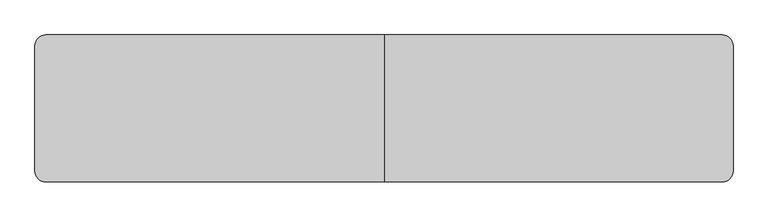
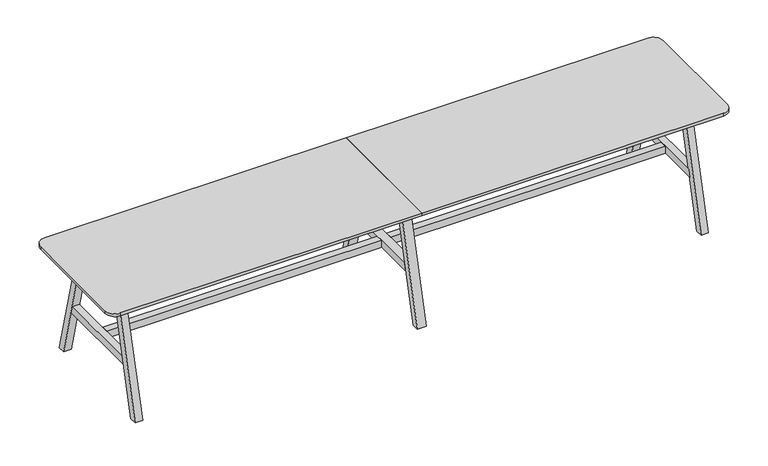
"""IFC4 building model written with IfcOpenShell, lengths in millimetres: furniture geometry, BDG_BossDesign_Tbls_AgentTables6Legs : AGE-DT-6L-3800-800-3D."""

from ifc_helpers import new_model, si_unit, point, frame, frame_2d, origin, place, context, project, spatial, polyline, circle_curve, trimmed, segment, composite_curve, outline, extrude, source, transform, mapped, element, save


def furniture_f8b1dc2d(model_context):
    return source(origin(), model_context, "Body", "SweptSolid", [
        extrude(outline(polyline([(400.0, 0.0), (354.9999949, 0.0), (185.5, 660.0), (230.5000051, 660.0), (400.0, 0.0)])), frame((-27.5, 0.0, 0.0), z_axis=(1.0, 0.0, 0.0), x_axis=(0.0, 1.0, 0.0)), (0.0, 0.0, 1.0), 55.0),
        extrude(outline(polyline([(-400.0, 0.0), (-230.5000051, 660.0), (-185.5, 660.0), (-354.9999949, 0.0), (-400.0, 0.0)])), frame((-27.5, 0.0, 0.0), z_axis=(1.0, 0.0, 0.0), x_axis=(0.0, 1.0, 0.0)), (0.0, 0.0, 1.0), 55.0),
        extrude(outline(polyline([(277.9545427, 300.0), (-277.9545427, 300.0), (-266.3977249, 345.0), (266.3977249, 345.0), (277.9545427, 300.0)])), frame((-27.5, 0.0, 0.0), z_axis=(1.0, 0.0, 0.0), x_axis=(0.0, 1.0, 0.0)), (0.0, 0.0, 1.0), 55.0),
        extrude(outline(composite_curve([segment(polyline([(0.0, 400.0), (0.0, -400.0), (-1840.0, -400.0)]), True, "CONTINUOUS"), segment(trimmed(circle_curve(frame_2d((-1840.0, -340.0)), 60.0), [point((-1840.0, -400.0))], [point((-1900.0, -340.0))], False, "CARTESIAN"), True, "CONTINUOUS"), segment(polyline([(-1900.0, -340.0), (-1900.0, 340.0)]), True, "CONTINUOUS"), segment(trimmed(circle_curve(frame_2d((-1840.0, 340.0)), 60.0), [point((-1900.0, 340.0))], [point((-1840.0, 400.0))], False, "CARTESIAN"), True, "CONTINUOUS"), segment(polyline([(-1840.0, 400.0), (0.0, 400.0)]), True, "CONTINUOUS")], self_intersect=False)), frame((0.0, 0.0, 722.0), z_axis=(0.0, 0.0, 1.0), x_axis=(1.0, 0.0, 0.0)), (0.0, 0.0, 1.0), 18.0),
        extrude(outline(polyline([(-266.3977249, 345.0), (266.3977249, 345.0), (277.9545427, 300.0), (-277.9545427, 300.0), (-266.3977249, 345.0)])), frame((1705.0, 0.0, 0.0), z_axis=(1.0, 0.0, 0.0), x_axis=(0.0, 1.0, 0.0)), (0.0, 0.0, 1.0), 45.0),
        extrude(outline(polyline([(400.0, 0.0), (354.9999949, 0.0), (185.5, 660.0), (230.5000051, 660.0), (400.0, 0.0)])), frame((-1750.0, 0.0, 0.0), z_axis=(1.0, 0.0, 0.0), x_axis=(0.0, 1.0, 0.0)), (0.0, 0.0, 1.0), 45.0),
        extrude(outline(polyline([(-400.0, 0.0), (-230.5000051, 660.0), (-185.5, 660.0), (-354.9999949, 0.0), (-400.0, 0.0)])), frame((-1750.0, 0.0, 0.0), z_axis=(1.0, 0.0, 0.0), x_axis=(0.0, 1.0, 0.0)), (0.0, 0.0, 1.0), 45.0),
        extrude(outline(polyline([(-266.3977249, 345.0), (266.3977249, 345.0), (277.9545427, 300.0), (-277.9545427, 300.0), (-266.3977249, 345.0)])), frame((-1750.0, 0.0, 0.0), z_axis=(1.0, 0.0, 0.0), x_axis=(0.0, 1.0, 0.0)), (0.0, 0.0, 1.0), 45.0),
        extrude(outline(polyline([(-226.6006165, 634.973938), (-204.2770691, 722.0), (-179.5, 722.0), (-201.8235474, 634.973938), (-226.6006165, 634.973938)])), frame((-1705.0, 0.0, 0.0), z_axis=(1.0, 0.0, 0.0), x_axis=(0.0, 1.0, 0.0)), (0.0, 0.0, 1.0), 3410.0),
        extrude(outline(polyline([(226.6006165, 634.973938), (201.8235474, 634.973938), (179.5, 722.0), (204.2770691, 722.0), (226.6006165, 634.973938)])), frame((-1705.0, 0.0, 0.0), z_axis=(1.0, 0.0, 0.0), x_axis=(0.0, 1.0, 0.0)), (0.0, 0.0, 1.0), 3410.0),
        extrude(outline(polyline([(399.7999878, 0.0), (354.7999827, 0.0), (185.5, 660.0), (230.5000051, 660.0), (399.7999878, 0.0)])), frame((1705.0, 0.0, 0.0), z_axis=(1.0, 0.0, 0.0), x_axis=(0.0, 1.0, 0.0)), (0.0, 0.0, 1.0), 45.0),
        extrude(outline(polyline([(-399.7999878, 0.0), (-230.5000051, 660.0), (-185.5, 660.0), (-354.7999827, 0.0), (-399.7999878, 0.0)])), frame((1705.0, 0.0, 0.0), z_axis=(1.0, 0.0, 0.0), x_axis=(0.0, 1.0, 0.0)), (0.0, 0.0, 1.0), 45.0),
        extrude(outline(polyline([(-27.5, 22.5000305), (-27.5, -22.5000305), (-1705.0, -22.5000305), (-1705.0, 22.5000305), (-27.5, 22.5000305)])), frame((0.0, 0.0, 300.0), z_axis=(0.0, 0.0, 1.0), x_axis=(1.0, 0.0, 0.0)), (0.0, 0.0, 1.0), 45.0),
        extrude(outline(polyline([(27.5, -22.5000305), (27.5, 22.5000305), (1705.0, 22.5000305), (1705.0, -22.5000305), (27.5, -22.5000305)])), frame((0.0, 0.0, 300.0), z_axis=(0.0, 0.0, 1.0), x_axis=(1.0, 0.0, 0.0)), (0.0, 0.0, 1.0), 45.0),
        extrude(outline(composite_curve([segment(trimmed(circle_curve(frame_2d((1840.0, 340.0)), 60.0), [point((1840.0, 400.0))], [point((1900.0, 340.0))], False, "CARTESIAN"), True, "CONTINUOUS"), segment(polyline([(1900.0, 340.0), (1900.0, -340.0)]), True, "CONTINUOUS"), segment(trimmed(circle_curve(frame_2d((1840.0, -340.0)), 60.0), [point((1900.0, -340.0))], [point((1840.0, -400.0))], False, "CARTESIAN"), True, "CONTINUOUS"), segment(polyline([(1840.0, -400.0), (0.0, -400.0), (0.0, 400.0), (1840.0, 400.0)]), True, "CONTINUOUS")], self_intersect=False)), frame((0.0, 0.0, 722.0), z_axis=(0.0, 0.0, 1.0), x_axis=(1.0, 0.0, 0.0)), (0.0, 0.0, 1.0), 18.0),
    ])


if __name__ == "__main__":
    model = new_model("IFC4")
    model_context = context("Model", 3, world=origin())
    ifc_project = project(units=[si_unit("LENGTHUNIT", "METRE", prefix="MILLI")], contexts=[model_context])
    site = spatial("IfcSite", under=ifc_project)
    building = spatial("IfcBuilding", under=site)
    placement = place(None, origin())
    furniture_shape = furniture_f8b1dc2d(model_context)
    element("IfcFurniture", 1, ObjectType="BDG_BossDesign_Tbls_AgentTables6Legs : AGE-DT-6L-3800-800-3D", at=placement, inside=building, context=model_context, shape_type="MappedRepresentation", body=[
        mapped(furniture_shape, transform((0.0, 0.0, 0.0), x_axis=(1.0, 0.0, 0.0), y_axis=(0.0, 1.0, 0.0), z_axis=(0.0, 0.0, 1.0))),
    ])
    save(model, "model.ifc")
